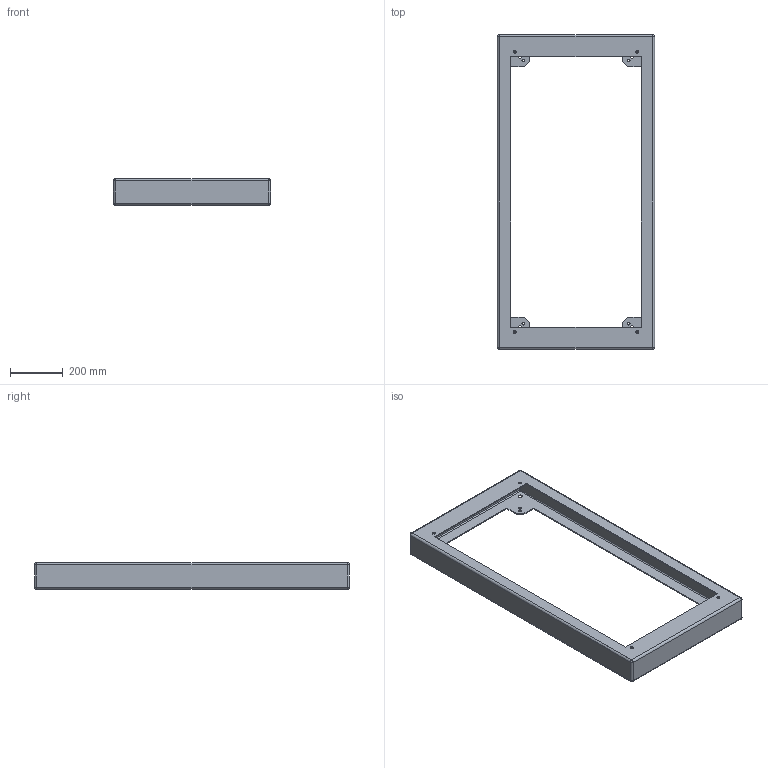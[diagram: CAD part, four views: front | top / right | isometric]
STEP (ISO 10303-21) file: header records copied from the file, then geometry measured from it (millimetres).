
FILE_DESCRIPTION(('STEP AP242'), '1');
FILE_NAME('2810 Öîêîëü ñåéñìîñòîéêèé', '', ('UNSPECIFIED'), ('UNSPECIFIED'), 'C3D Converter', 'C3D Toolkit', '');
FILE_SCHEMA(('AP242_MANAGED_MODEL_BASED_3D_ENGINEERING_MIM_LF { 1 0 10303 442 1 1 4 }'));
Length unit declared in the file: millimetre
Products named in the file (1): 2810.120.60
Bounding box: 597 x 1197 x 100 mm (x, y, z)
Volume: 2809460.3 mm3; surface area: 1432121.5 mm2
Topology: 1 solids, 1 shells, 141 faces, 338 edges, 193 vertices
Faces by surface type: plane 64, cylinder 44, cone 17, sphere 16
Full cylindrical faces by diameter (mm): 8.376 x4, 11 x12, 16 x4
Entity records: 6792 total; most frequent: CARTESIAN_POINT 2556, DIRECTION 626, ORIENTED_EDGE 570, EDGE_CURVE 285, AXIS2_PLACEMENT_3D 247, EDGE_LOOP 222, VERTEX_POINT 193, FACE_BOUND 156
